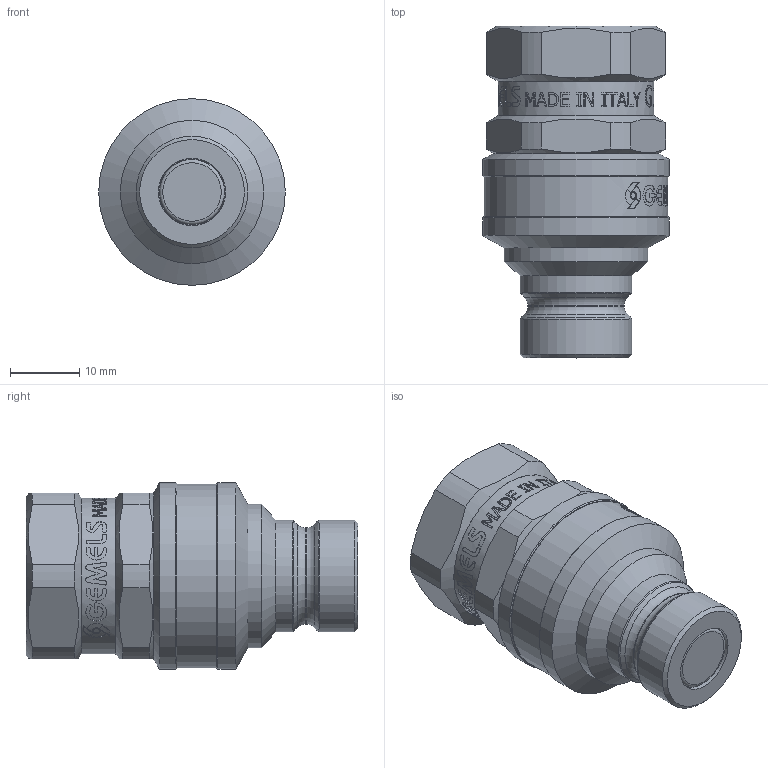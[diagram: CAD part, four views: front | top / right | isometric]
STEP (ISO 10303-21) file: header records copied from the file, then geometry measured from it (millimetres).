
FILE_DESCRIPTION(/* description */ (''),/* implementation_level */ '2;1');
FILE_NAME(/* name */ 'NC05G010000.stp',/* time_stamp */ '2026-03-18T09:45:51+01:00',/* author */ ('isabel.merisio'),/* organization */ (''),/* preprocessor_version */ 'ST-DEVELOPER v20',/* originating_system */ 'Autodesk Inventor 2024',/* authorisation */ '');
FILE_SCHEMA (('AUTOMOTIVE_DESIGN { 1 0 10303 214 3 1 1 }'));
Length unit declared in the file: millimetre
Products named in the file (1): Parte4
Bounding box: 27 x 48 x 27 mm (x, y, z)
Volume: 17789.8 mm3; surface area: 5101.3 mm2
Topology: 1 solids, 1 shells, 1087 faces, 3103 edges, 2060 vertices
Faces by surface type: bspline 728, plane 264, cylinder 76, cone 14, torus 5
Full cylindrical faces by diameter (mm): 9.7 x1, 11.445 x1, 12 x1, 13.95 x1, 16.15 x2, 20.75 x1, 22.5 x1, 26.5 x1, 27 x2
Entity records: 47463 total; most frequent: CARTESIAN_POINT 22809, ORIENTED_EDGE 6206, EDGE_CURVE 3103, DIRECTION 2656, VERTEX_POINT 2060, B_SPLINE_CURVE_WITH_KNOTS 1504, LINE 1214, VECTOR 1214
